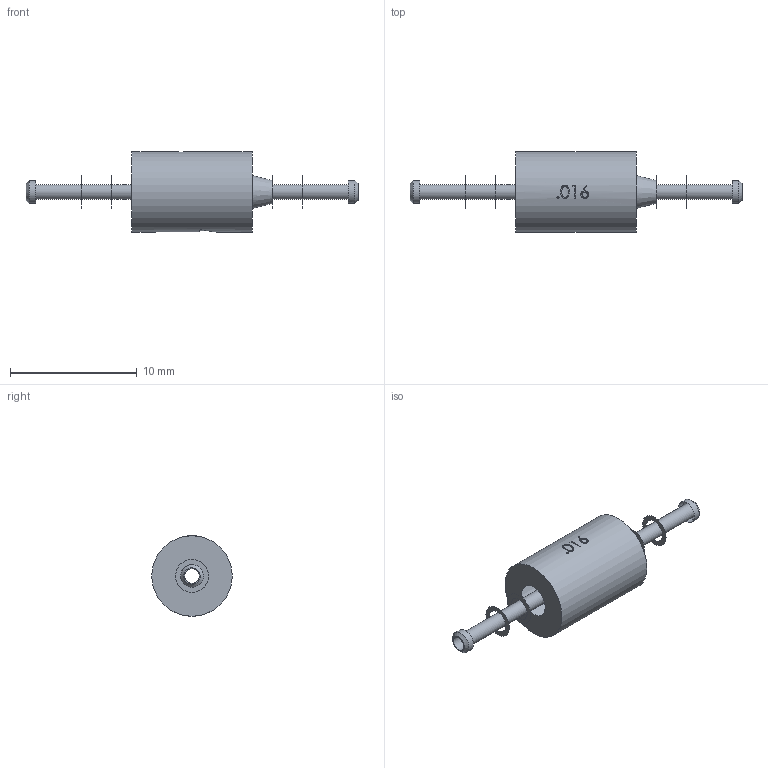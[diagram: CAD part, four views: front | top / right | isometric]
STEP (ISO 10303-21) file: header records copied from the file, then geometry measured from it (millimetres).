
FILE_DESCRIPTION(/* description */ ('SolidWorks IGES file using analytic representation for surfaces '),/* implementation_level */ '2;1');
FILE_NAME(/* name */ 'K:\Normteile INVENTOR\Air-Logic\Orifice restrictors\F-2815-161-B80.IGS.ipt.stp',/* time_stamp */ '2020-05-27T10:46:16+02:00',/* author */ ('cad'),/* organization */ (''),/* preprocessor_version */ 'ST-DEVELOPER v18',/* originating_system */ 'Autodesk Inventor 2020',/* authorisation */ '');
FILE_SCHEMA (('AUTOMOTIVE_DESIGN { 1 0 10303 214 3 1 1 }'));
Length unit declared in the file: millimetre
Products named in the file (1): F-2815-161-B80.IGS
Bounding box: 26.21 x 6.35 x 6.35 mm (x, y, z)
Volume: 334.3 mm3; surface area: 467 mm2
Topology: 1 solids, 1 shells, 65 faces, 172 edges, 121 vertices
Faces by surface type: bspline 28, plane 18, cylinder 11, cone 8
Full cylindrical faces by diameter (mm): 1.17 x1, 1.8 x2, 6.35 x1
Entity records: 3730 total; most frequent: CARTESIAN_POINT 2178, ORIENTED_EDGE 344, DIRECTION 253, EDGE_CURVE 172, VERTEX_POINT 121, AXIS2_PLACEMENT_3D 96, EDGE_LOOP 79, FACE_OUTER_BOUND 65
